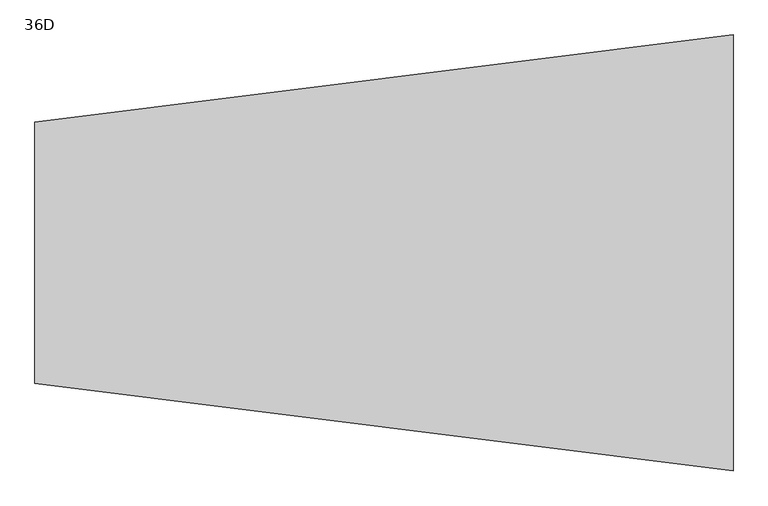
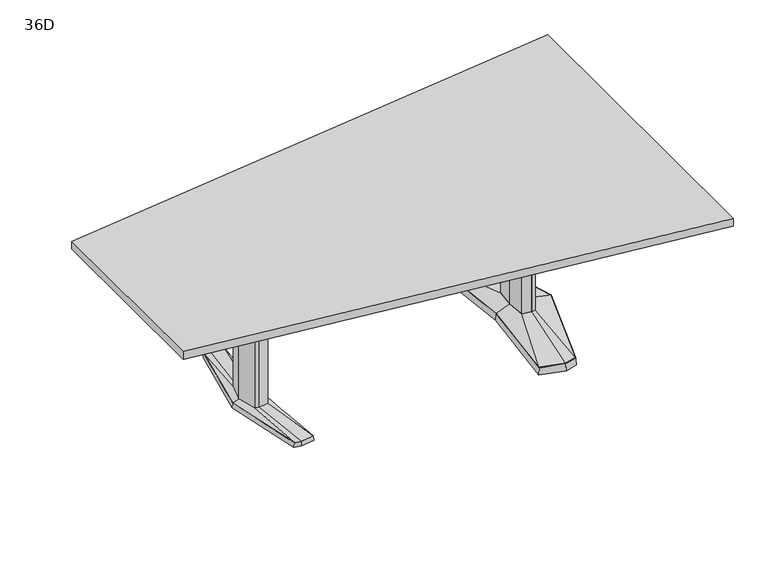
"""IFC4 building model written with IfcOpenShell, lengths in millimetres: furniture geometry, Coalesse_AM_Table_Conference_ETable2_Trapezoid_96in_AluminiumBase : 36D."""

from ifc_helpers import new_model, si_unit, frame, origin, place, context, project, spatial, polyline, outline, extrude, faceted_brep, source, transform, mapped, element, save
from ifc_brep_helpers import plane_surface, spline_surface, advanced_brep


def furniture_36d_ee0eb5e9(model_context):
    return source(origin(), model_context, "Body", "SolidModel", [
        advanced_brep(
        [(-612.4690971, -379.3768856, 25.4), (-646.5982754, -94.605478, 36.5125), (-665.8514743, -89.293702, 36.5125), (-642.1944136, -371.5332654, 25.4), (-549.3800038, -368.5071562, 25.4), (-603.6708501, -87.0529327, 36.5125), (-577.4577254, 0.3970149, 25.4), (-595.5551707, 0.0, 36.5125), (-549.3802502, 368.5172593, 25.4), (-603.6708501, 87.0529327, 36.5125), (-612.4689733, 379.3769183, 25.4), (-646.5982754, 94.605478, 36.5125), (-642.3722958, 371.4863276, 25.4), (-665.8514743, 89.293702, 36.5125), (-719.1039163, 0.0003516, 25.4), (-689.7782751, 0.0, 36.5125), (-575.8656242, 0.3968871, 3.175), (-547.6875, -369.8264415, 3.175), (-612.5400504, -381.0, 3.175), (-643.5497317, -372.8174744, 3.175), (-720.725, 0.0, 3.175), (-643.7280745, 372.7704151, 3.175), (-612.5400504, 381.0, 3.175), (-547.6875, 369.8367279, 3.175), (-647.2166764, 107.6121478, 3.175), (-676.2370973, 99.6056872, 3.175), (-702.9270585, 0.0, 3.175), (-676.2370973, -99.6056872, 3.175), (-647.2166764, -107.6121478, 3.175), (-591.9252951, -97.8843184, 3.175), (-582.7998387, 0.0, 3.175), (-591.9252951, 97.8843184, 3.175), (-611.0474312, 346.9152841, 3.175), (-645.1732026, 337.9105158, 3.175), (-646.2913109, 324.4807859, 3.175), (-610.4788144, 333.9306305, 3.175), (-557.8077418, 324.8641942, 3.175), (-555.3998871, 337.3364985, 3.175), (-611.0474312, -346.9152841, 3.175), (-555.3998871, -337.3364985, 3.175), (-557.8077418, -324.8641942, 3.175), (-610.4788144, -333.9306305, 3.175), (-646.2913109, -324.4807859, 3.175), (-645.1732026, -337.9105158, 3.175), (-647.2166764, 107.6121478, 0.0), (-591.9252951, 97.8843184, 0.0), (-582.7998387, 0.0, 0.0), (-591.9252951, -97.8843184, 0.0), (-647.2166764, -107.6121478, 0.0), (-676.2370973, -99.6056872, 0.0), (-702.9270585, 0.0, 0.0), (-676.2370973, 99.6056872, 0.0), (-611.0474312, 346.9152841, 0.0), (-555.3998871, 337.3364985, 0.0), (-557.8077418, 324.8641942, 0.0), (-610.4788144, 333.9306305, 0.0), (-646.2913109, 324.4807859, 0.0), (-645.1732026, 337.9105158, 0.0), (-611.0474312, -346.9152841, 0.0), (-645.1732026, -337.9105158, 0.0), (-646.2913109, -324.4807859, 0.0), (-610.4788144, -333.9306305, 0.0), (-557.8077418, -324.8641942, 0.0), (-555.3998871, -337.3364985, 0.0), (-665.8514743, 89.293702, 698.5), (-689.7782751, 0.0, 698.5), (-665.8514743, -89.293702, 698.5), (-646.5982754, -94.605478, 698.5), (-603.6708501, -87.0529327, 698.5), (-595.5551707, 0.0, 698.5), (-603.6708501, 87.0529327, 698.5), (-646.5982754, 94.605478, 698.5)],
        [
            (0, 1),
            (1, 2),
            (2, 3),
            (3, 0),
            (0, 4),
            (4, 5),
            (5, 1),
            (4, 6),
            (6, 7),
            (7, 5),
            (6, 8),
            (8, 9),
            (9, 7),
            (8, 10),
            (10, 11),
            (11, 9),
            (10, 12),
            (12, 13),
            (13, 11),
            (12, 14),
            (14, 15),
            (15, 13),
            (2, 15),
            (14, 3),
            (16, 17),
            (17, 18),
            (18, 19),
            (19, 20),
            (20, 21),
            (21, 22),
            (22, 23),
            (23, 16),
            (24, 25),
            (25, 26),
            (26, 27),
            (27, 28),
            (28, 29),
            (29, 30),
            (30, 31),
            (31, 24),
            (32, 33),
            (33, 34),
            (34, 35),
            (35, 36),
            (36, 37),
            (37, 32),
            (38, 39),
            (39, 40),
            (40, 41),
            (41, 42),
            (42, 43),
            (43, 38),
            (23, 8),
            (6, 16),
            (22, 10),
            (21, 12),
            (20, 14),
            (19, 3),
            (18, 0),
            (17, 4),
            (44, 45),
            (45, 46),
            (46, 47),
            (47, 48),
            (48, 49),
            (49, 50),
            (50, 51),
            (51, 44),
            (52, 53),
            (53, 54),
            (54, 55),
            (55, 56),
            (56, 57),
            (57, 52),
            (58, 59),
            (59, 60),
            (60, 61),
            (61, 62),
            (62, 63),
            (63, 58),
            (51, 25),
            (24, 44),
            (50, 26),
            (49, 27),
            (48, 28),
            (47, 29),
            (46, 30),
            (45, 31),
            (57, 33),
            (32, 52),
            (56, 34),
            (55, 35),
            (54, 36),
            (53, 37),
            (63, 39),
            (38, 58),
            (62, 40),
            (61, 41),
            (60, 42),
            (59, 43),
            (64, 65),
            (65, 66),
            (66, 67),
            (67, 68),
            (68, 69),
            (69, 70),
            (70, 71),
            (71, 64),
            (64, 13),
            (15, 65),
            (2, 66),
            (1, 67),
            (5, 68),
            (7, 69),
            (9, 70),
            (11, 71),
        ],
        [
            spline_surface(1, 1, [[(-642.1944136, -371.5332654, 25.4), (-665.8514743, -89.293702, 36.5125)], [(-612.4690971, -379.3768856, 25.4), (-646.5982754, -94.605478, 36.5125)]], [2, 2], [2, 2], [0.0, 1.0], [0.0, 1.0]),
            spline_surface(1, 1, [[(-612.4690971, -379.3768856, 25.4), (-646.5982754, -94.605478, 36.5125)], [(-549.3800038, -368.5071562, 25.4), (-603.6708501, -87.0529327, 36.5125)]], [2, 2], [2, 2], [0.0, 1.0], [0.0, 1.0]),
            spline_surface(1, 1, [[(-549.3800038, -368.5071562, 25.4), (-603.6708501, -87.0529327, 36.5125)], [(-577.4577254, 0.3970149, 25.4), (-595.5551707, 0.0, 36.5125)]], [2, 2], [2, 2], [0.0, 1.0], [0.0, 1.0]),
            spline_surface(1, 1, [[(-577.4577254, 0.3970149, 25.4), (-595.5551707, 0.0, 36.5125)], [(-549.3802502, 368.5172593, 25.4), (-603.6708501, 87.0529327, 36.5125)]], [2, 2], [2, 2], [0.0, 1.0], [0.0, 1.0]),
            spline_surface(1, 1, [[(-549.3802502, 368.5172593, 25.4), (-603.6708501, 87.0529327, 36.5125)], [(-612.4689733, 379.3769183, 25.4), (-646.5982754, 94.605478, 36.5125)]], [2, 2], [2, 2], [0.0, 1.0], [0.0, 1.0]),
            spline_surface(1, 1, [[(-612.4689733, 379.3769183, 25.4), (-646.5982754, 94.605478, 36.5125)], [(-642.3722958, 371.4863276, 25.4), (-665.8514743, 89.293702, 36.5125)]], [2, 2], [2, 2], [0.0, 1.0], [0.0, 1.0]),
            spline_surface(1, 1, [[(-642.3722958, 371.4863276, 25.4), (-665.8514743, 89.293702, 36.5125)], [(-719.1039163, 0.0003516, 25.4), (-689.7782751, 0.0, 36.5125)]], [2, 2], [2, 2], [0.0, 1.0], [0.0, 1.0]),
            spline_surface(1, 1, [[(-719.1039163, 0.0003516, 25.4), (-689.7782751, 0.0, 36.5125)], [(-642.1944136, -371.5332654, 25.4), (-665.8514743, -89.293702, 36.5125)]], [2, 2], [2, 2], [0.0, 1.0], [0.0, 1.0]),
            plane_surface(frame((-613.0404414, 0.0450143, 3.175), z_axis=(0.0, 0.0, -1.0), x_axis=(0.9669048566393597, -0.2551372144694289, 0.0))),
            plane_surface(frame((-561.7765621, 185.1168075, 3.175), z_axis=(0.9945699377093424, -0.07585840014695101, 0.0712470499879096), x_axis=(0.07605167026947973, 0.9971038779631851, 0.0))),
            plane_surface(frame((-580.1137752, 375.418364, 3.175), z_axis=(0.1692071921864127, 0.9830019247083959, 0.07124704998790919), x_axis=(-0.985506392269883, 0.16963829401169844, 0.0))),
            plane_surface(frame((-628.1340624, 376.8852076, 3.175), z_axis=(-0.2544888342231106, 0.9644476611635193, 0.07124704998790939), x_axis=(-0.9669048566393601, -0.25513721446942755, 0.0))),
            plane_surface(frame((-682.2265372, 186.3852076, 3.175), z_axis=(-0.9768383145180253, 0.2017690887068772, 0.07124704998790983), x_axis=(-0.20228315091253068, -0.9793270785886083, 0.0))),
            plane_surface(frame((-682.1373658, -186.4087372, 3.175), z_axis=(-0.9767507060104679, -0.20219276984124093, 0.07124704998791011), x_axis=(0.2027079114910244, -0.9792392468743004, 0.0))),
            plane_surface(frame((-628.044891, -376.9087372, 3.175), z_axis=(-0.2544888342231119, -0.9644476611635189, 0.0712470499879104), x_axis=(0.9669048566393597, -0.2551372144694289, 0.0))),
            plane_surface(frame((-580.1137752, -375.4132207, 3.175), z_axis=(0.16935861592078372, -0.982975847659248, 0.07124704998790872), x_axis=(0.9854802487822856, 0.16979010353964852, 0.0))),
            plane_surface(frame((-561.7765621, -184.7147772, 3.175), z_axis=(0.9945820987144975, 0.07569878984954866, 0.07124704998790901), x_axis=(-0.07589165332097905, 0.9971160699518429, 0.0))),
            plane_surface(frame((-649.9758979, 106.8509046, 0.0), z_axis=(0.0, 0.0, -1.0000000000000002), x_axis=(0.9639855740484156, 0.26595453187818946, 0.0))),
            plane_surface(frame((-647.2166764, 107.6121478, 3.175), z_axis=(-0.26595453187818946, 0.9639855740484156, 0.0), x_axis=(0.0, 0.0, -1.0))),
            plane_surface(frame((-676.2370973, 99.6056872, 3.175), z_axis=(-0.9659241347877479, 0.2588253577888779, 0.0), x_axis=(0.0, 0.0, -1.0))),
            plane_surface(frame((-702.9270585, 0.0, 3.175), z_axis=(-0.9659241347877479, -0.2588253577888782, 0.0), x_axis=(0.0, 0.0, -1.0))),
            plane_surface(frame((-676.2370973, -99.6056872, 3.175), z_axis=(-0.26595453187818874, -0.9639855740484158, 0.0), x_axis=(0.0, 0.0, -1.0))),
            plane_surface(frame((-647.2166764, -107.6121478, 3.175), z_axis=(0.17327617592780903, -0.9848732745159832, 0.0), x_axis=(0.0, 0.0, -1.0))),
            plane_surface(frame((-591.9252951, -97.8843184, 3.175), z_axis=(0.9956824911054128, -0.0928244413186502, 0.0), x_axis=(0.0, 0.0, -1.0))),
            plane_surface(frame((-582.7998387, 0.0, 3.175), z_axis=(0.9956824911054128, 0.09282444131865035, 0.0), x_axis=(0.0, 0.0, -1.0))),
            plane_surface(frame((-591.9252951, 97.8843184, 3.175), z_axis=(0.17327617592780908, 0.984873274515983, 0.0), x_axis=(0.0, 0.0, -1.0))),
            plane_surface(frame((-611.0474312, 346.9152841, 3.175), z_axis=(-0.25513721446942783, 0.9669048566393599, 0.0), x_axis=(0.0, 0.0, -1.0))),
            plane_surface(frame((-645.1732026, 337.9105158, 3.175), z_axis=(-0.9965521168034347, 0.0829691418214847, 0.0), x_axis=(0.0, 0.0, -1.0))),
            plane_surface(frame((-646.2913109, 324.4807859, 3.175), z_axis=(0.25513721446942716, -0.9669048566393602, 0.0), x_axis=(0.0, 0.0, -1.0))),
            plane_surface(frame((-610.4788144, 333.9306305, 3.175), z_axis=(-0.16963829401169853, -0.985506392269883, 0.0), x_axis=(0.0, 0.0, -1.0))),
            plane_surface(frame((-557.8077418, 324.8641942, 3.175), z_axis=(0.9818699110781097, -0.18955600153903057, 0.0), x_axis=(0.0, 0.0, -1.0))),
            plane_surface(frame((-555.3998871, 337.3364985, 3.175), z_axis=(0.16963829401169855, 0.9855063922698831, 0.0), x_axis=(0.0, 0.0, -1.0))),
            plane_surface(frame((-611.0474312, -346.9152841, 3.175), z_axis=(0.1696382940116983, -0.9855063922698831, 0.0), x_axis=(0.0, 0.0, -1.0))),
            plane_surface(frame((-555.3998871, -337.3364985, 3.175), z_axis=(0.9818699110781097, 0.18955600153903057, 0.0), x_axis=(0.0, 0.0, -1.0))),
            plane_surface(frame((-557.8077418, -324.8641942, 3.175), z_axis=(-0.16963829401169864, 0.985506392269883, 0.0), x_axis=(0.0, 0.0, -1.0))),
            plane_surface(frame((-610.4788144, -333.9306305, 3.175), z_axis=(0.2551372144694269, 0.9669048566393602, 0.0), x_axis=(0.0, 0.0, -1.0))),
            plane_surface(frame((-646.2913109, -324.4807859, 3.175), z_axis=(-0.9965521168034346, -0.0829691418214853, 0.0), x_axis=(0.0, 0.0, -1.0))),
            plane_surface(frame((-645.1732026, -337.9105158, 3.175), z_axis=(-0.2551372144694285, -0.9669048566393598, 0.0), x_axis=(0.0, 0.0, -1.0))),
            plane_surface(frame((-689.7782751, 0.0, 698.5), z_axis=(0.0, 0.0, 1.0), x_axis=(-0.25882535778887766, -0.965924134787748, 0.0))),
            plane_surface(frame((-665.8514743, 89.293702, 698.5), z_axis=(-0.965924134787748, 0.25882535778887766, 0.0), x_axis=(0.0, 0.0, -1.0))),
            plane_surface(frame((-689.7782751, 0.0, 698.5), z_axis=(-0.965924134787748, -0.2588253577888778, 0.0), x_axis=(0.0, 0.0, -1.0))),
            plane_surface(frame((-665.8514743, -89.293702, 698.5), z_axis=(-0.2659545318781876, -0.963985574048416, 0.0), x_axis=(0.0, 0.0, -1.0))),
            plane_surface(frame((-646.5982754, -94.605478, 698.5), z_axis=(0.1732761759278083, -0.9848732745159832, 0.0), x_axis=(0.0, 0.0, -1.0))),
            plane_surface(frame((-603.6708501, -87.0529327, 698.5), z_axis=(0.9956824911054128, -0.0928244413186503, 0.0), x_axis=(0.0, 0.0, -1.0))),
            plane_surface(frame((-595.5551707, 0.0, 698.5), z_axis=(0.9956824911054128, 0.09282444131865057, 0.0), x_axis=(0.0, 0.0, -1.0))),
            plane_surface(frame((-603.6708501, 87.0529327, 698.5), z_axis=(0.17327617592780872, 0.9848732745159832, 0.0), x_axis=(0.0, 0.0, -1.0))),
            plane_surface(frame((-646.5982754, 94.605478, 698.5), z_axis=(-0.26595453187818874, 0.9639855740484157, 0.0), x_axis=(0.0, 0.0, -1.0))),
        ],
        [
            (0, [[1, 2, 3, 4]]),
            (1, [[-1, 5, 6, 7]]),
            (2, [[-6, 8, 9, 10]]),
            (3, [[-9, 11, 12, 13]]),
            (4, [[-12, 14, 15, 16]]),
            (5, [[-15, 17, 18, 19]]),
            (6, [[-18, 20, 21, 22]]),
            (7, [[-3, 23, -21, 24]]),
            (8, [[25, 26, 27, 28, 29, 30, 31, 32], [33, 34, 35, 36, 37, 38, 39, 40], [41, 42, 43, 44, 45, 46], [47, 48, 49, 50, 51, 52]]),
            (9, [[-32, 53, -11, 54]]),
            (10, [[-31, 55, -14, -53]]),
            (11, [[-30, 56, -17, -55]]),
            (12, [[-29, 57, -20, -56]]),
            (13, [[-28, 58, -24, -57]]),
            (14, [[-27, 59, -4, -58]]),
            (15, [[-26, 60, -5, -59]]),
            (16, [[-25, -54, -8, -60]]),
            (17, [[61, 62, 63, 64, 65, 66, 67, 68]]),
            (17, [[69, 70, 71, 72, 73, 74]]),
            (17, [[75, 76, 77, 78, 79, 80]]),
            (18, [[-68, 81, -33, 82]]),
            (19, [[-67, 83, -34, -81]]),
            (20, [[-66, 84, -35, -83]]),
            (21, [[-65, 85, -36, -84]]),
            (22, [[-64, 86, -37, -85]]),
            (23, [[-63, 87, -38, -86]]),
            (24, [[-62, 88, -39, -87]]),
            (25, [[-61, -82, -40, -88]]),
            (26, [[-74, 89, -41, 90]]),
            (27, [[-73, 91, -42, -89]]),
            (28, [[-72, 92, -43, -91]]),
            (29, [[-71, 93, -44, -92]]),
            (30, [[-70, 94, -45, -93]]),
            (31, [[-69, -90, -46, -94]]),
            (32, [[-80, 95, -47, 96]]),
            (33, [[-79, 97, -48, -95]]),
            (34, [[-78, 98, -49, -97]]),
            (35, [[-77, 99, -50, -98]]),
            (36, [[-76, 100, -51, -99]]),
            (37, [[-75, -96, -52, -100]]),
            (38, [[101, 102, 103, 104, 105, 106, 107, 108]]),
            (39, [[-101, 109, -22, 110]]),
            (40, [[-102, -110, -23, 111]]),
            (41, [[-103, -111, -2, 112]]),
            (42, [[-104, -112, -7, 113]]),
            (43, [[-105, -113, -10, 114]]),
            (44, [[-106, -114, -13, 115]]),
            (45, [[-107, -115, -16, 116]]),
            (46, [[-108, -116, -19, -109]]),
        ],
    ),
        faceted_brep([(601.0306835, 455.5848221, 38.1), (491.4531277, 426.2263816, 38.1), (532.6163717, 0.0, 38.1), (491.4531277, -426.2263816, 38.1), (601.0306835, -455.5848221, 38.1), (657.1570396, -440.5478297, 38.1), (794.4684269, 0.0, 38.1), (657.1570396, 440.5478297, 38.1), (601.0306754, 457.2283104, 3.175), (658.4124472, 441.8549756, 3.175), (796.13125, 0.0, 3.175), (658.4124472, -441.8549756, 3.175), (601.0306754, -457.2283104, 3.175), (489.74375, -427.4118891, 3.175), (531.0214856, 0.0, 3.175), (489.74375, 427.4118891, 3.175), (604.620115, 428.3273875, 3.175), (499.5718228, 402.1057253, 3.175), (507.690518, 377.985069, 3.175), (608.2095466, 401.0699529, 3.175), (658.7691725, 387.524361, 3.175), (657.9631061, 414.0360954, 3.175), (604.620115, -428.3273875, 3.175), (657.9631061, -414.0360954, 3.175), (658.7691725, -387.524361, 3.175), (608.2095466, -401.0699529, 3.175), (507.690518, -377.985069, 3.175), (499.5718228, -402.1057253, 3.175), (731.2153621, 0.0, 3.175), (698.9459611, 120.4193755, 3.175), (650.2987222, 133.471665, 3.175), (570.4180526, 119.4176561, 3.175), (559.2868466, 0.0, 3.175), (570.4180526, -119.4176561, 3.175), (650.2987222, -133.471665, 3.175), (698.9459611, -120.4193755, 3.175), (604.620115, 428.3273875, 0.0), (657.9631061, 414.0360954, 0.0), (658.7691725, 387.524361, 0.0), (608.2095466, 401.0699529, 0.0), (507.690518, 377.985069, 0.0), (499.5718228, 402.1057253, 0.0), (604.620115, -428.3273875, 0.0), (499.5718228, -402.1057253, 0.0), (507.690518, -377.985069, 0.0), (608.2095466, -401.0699529, 0.0), (658.7691725, -387.524361, 0.0), (657.9631061, -414.0360954, 0.0), (731.2153621, 0.0, 0.0), (698.9459611, -120.4193755, 0.0), (650.2987222, -133.471665, 0.0), (570.4180526, -119.4176561, 0.0), (559.2868466, 0.0, 0.0), (570.4180526, 119.4176561, 0.0), (650.2987222, 133.471665, 0.0), (698.9459611, 120.4193755, 0.0)], [[[0, 1, 2, 3, 4, 5, 6, 7]], [[8, 9, 10, 11, 12, 13, 14, 15], [16, 17, 18, 19, 20, 21], [22, 23, 24, 25, 26, 27], [28, 29, 30, 31, 32, 33, 34, 35]], [[7, 9, 8, 0]], [[6, 10, 9, 7]], [[5, 11, 10, 6]], [[4, 12, 11, 5]], [[3, 13, 12, 4]], [[2, 14, 13, 3]], [[1, 15, 14, 2]], [[0, 8, 15, 1]], [[36, 37, 38, 39, 40, 41]], [[42, 43, 44, 45, 46, 47]], [[48, 49, 50, 51, 52, 53, 54, 55]], [[36, 16, 21, 37]], [[37, 21, 20, 38]], [[38, 20, 19, 39]], [[39, 19, 18, 40]], [[40, 18, 17, 41]], [[41, 17, 16, 36]], [[42, 22, 27, 43]], [[43, 27, 26, 44]], [[44, 26, 25, 45]], [[45, 25, 24, 46]], [[46, 24, 23, 47]], [[47, 23, 22, 42]], [[48, 28, 35, 49]], [[49, 35, 34, 50]], [[50, 34, 33, 51]], [[51, 33, 32, 52]], [[52, 32, 31, 53]], [[53, 31, 30, 54]], [[54, 30, 29, 55]], [[55, 29, 28, 48]]]),
        faceted_brep([(691.7710836, 0.0, 698.5), (667.8358546, 89.3188359, 698.5), (650.9824984, 93.8406728, 698.5), (648.5826511, 94.4845635, 698.5), (605.655146, 86.9320037, 698.5), (597.5520056, 0.0, 698.5), (605.655146, -86.9320037, 698.5), (648.5826511, -94.4845635, 698.5), (650.9824984, -93.8406728, 698.5), (667.8358546, -89.3188359, 698.5), (691.7710836, 0.0, 63.5), (667.8358546, -89.3188359, 63.5), (650.9824984, -93.8406728, 63.5), (648.5826511, -94.4845635, 63.5), (605.655146, -86.9320037, 63.5), (597.5520056, 0.0, 63.5), (605.655146, 86.9320037, 63.5), (648.5826511, 94.4845635, 63.5), (650.9824984, 93.8406728, 63.5), (667.8358546, 89.3188359, 63.5)], [[[0, 1, 2, 3, 4, 5, 6, 7, 8, 9]], [[10, 11, 12, 13, 14, 15, 16, 17, 18, 19]], [[9, 11, 10, 0]], [[8, 12, 11, 9]], [[7, 13, 12, 8]], [[6, 14, 13, 7]], [[5, 15, 14, 6]], [[4, 16, 15, 5]], [[3, 17, 16, 4]], [[2, 18, 17, 3]], [[1, 19, 18, 2]], [[0, 10, 19, 1]]]),
        advanced_brep(
        [(648.5826511, 94.4845635, 63.5), (605.655146, 86.9320037, 63.5), (597.5520056, 0.0, 63.5), (605.655146, -86.9320037, 63.5), (648.5826511, -94.4845635, 63.5), (667.8358546, -89.3188359, 63.5), (691.7710836, 0.0, 63.5), (667.8358546, 89.3188359, 63.5), (601.0306835, 455.5848221, 38.1), (657.1570396, 440.5478297, 38.1), (794.4684269, 0.0, 38.1), (657.1570396, -440.5478297, 38.1), (601.0306835, -455.5848221, 38.1), (491.4531277, -426.2263816, 38.1), (532.6163717, 0.0, 38.1), (491.4531277, 426.2263816, 38.1)],
        [
            (0, 1),
            (1, 2),
            (2, 3),
            (3, 4),
            (4, 5),
            (5, 6),
            (6, 7),
            (7, 0),
            (8, 9),
            (9, 10),
            (10, 11),
            (11, 12),
            (12, 13),
            (13, 14),
            (14, 15),
            (15, 8),
            (8, 0),
            (7, 9),
            (6, 10),
            (5, 11),
            (4, 12),
            (3, 13),
            (2, 14),
            (1, 15),
        ],
        [
            plane_surface(frame((641.6837991, 0.0, 63.5), z_axis=(0.0, 0.0, 1.0), x_axis=(-0.25884244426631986, -0.9659195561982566, 0.0))),
            plane_surface(frame((603.2958125, 0.0, 38.1), z_axis=(0.0, 0.0, -1.0), x_axis=(-0.25884244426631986, -0.9659195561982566, 0.0))),
            spline_surface(1, 1, [[(601.0306835, 455.5848221, 38.1), (657.1570396, 440.5478297, 38.1)], [(648.5826511, 94.4845635, 63.5), (667.8358546, 89.3188359, 63.5)]], [2, 2], [2, 2], [0.0, 1.0], [0.0, 1.0]),
            spline_surface(1, 1, [[(657.1570396, 440.5478297, 38.1), (794.4684269, 0.0, 38.1)], [(667.8358546, 89.3188359, 63.5), (691.7710836, 0.0, 63.5)]], [2, 2], [2, 2], [0.0, 1.0], [0.0, 1.0]),
            spline_surface(1, 1, [[(794.4684269, 0.0, 38.1), (657.1570396, -440.5478297, 38.1)], [(691.7710836, 0.0, 63.5), (667.8358546, -89.3188359, 63.5)]], [2, 2], [2, 2], [0.0, 1.0], [0.0, 1.0]),
            spline_surface(1, 1, [[(657.1570396, -440.5478297, 38.1), (601.0306835, -455.5848221, 38.1)], [(667.8358546, -89.3188359, 63.5), (648.5826511, -94.4845635, 63.5)]], [2, 2], [2, 2], [0.0, 1.0], [0.0, 1.0]),
            spline_surface(1, 1, [[(601.0306835, -455.5848221, 38.1), (491.4531277, -426.2263816, 38.1)], [(648.5826511, -94.4845635, 63.5), (605.655146, -86.9320037, 63.5)]], [2, 2], [2, 2], [0.0, 1.0], [0.0, 1.0]),
            spline_surface(1, 1, [[(491.4531277, -426.2263816, 38.1), (532.6163717, 0.0, 38.1)], [(605.655146, -86.9320037, 63.5), (597.5520056, 0.0, 63.5)]], [2, 2], [2, 2], [0.0, 1.0], [0.0, 1.0]),
            spline_surface(1, 1, [[(532.6163717, 0.0, 38.1), (491.4531277, 426.2263816, 38.1)], [(597.5520056, 0.0, 63.5), (605.655146, 86.9320037, 63.5)]], [2, 2], [2, 2], [0.0, 1.0], [0.0, 1.0]),
            spline_surface(1, 1, [[(491.4531277, 426.2263816, 38.1), (601.0306835, 455.5848221, 38.1)], [(605.655146, 86.9320037, 63.5), (648.5826511, 94.4845635, 63.5)]], [2, 2], [2, 2], [0.0, 1.0], [0.0, 1.0]),
        ],
        [
            (0, [[1, 2, 3, 4, 5, 6, 7, 8]]),
            (1, [[9, 10, 11, 12, 13, 14, 15, 16]]),
            (2, [[17, -8, 18, -9]]),
            (3, [[-18, -7, 19, -10]]),
            (4, [[-19, -6, 20, -11]]),
            (5, [[-20, -5, 21, -12]]),
            (6, [[-21, -4, 22, -13]]),
            (7, [[-22, -3, 23, -14]]),
            (8, [[-23, -2, 24, -15]]),
            (9, [[-24, -1, -17, -16]]),
        ],
    ),
        extrude(outline(polyline([(96.8375, 698.5), (103.1875, 698.5), (103.1875, 476.25), (-103.1875, 476.25), (-103.1875, 698.5), (-96.8375, 698.5), (-96.8375, 482.6), (96.8375, 482.6), (96.8375, 698.5)])), frame((-595.5551707, 0.0, 0.0), z_axis=(1.0, 0.0, 0.0), x_axis=(0.0, 1.0, 0.0)), (0.0, 0.0, 1.0), 1193.1071763),
        extrude(outline(polyline([(-1219.2, -457.2), (-1219.2, 457.2), (1219.2, 762.0), (1219.2, -762.0), (-1219.2, -457.2)])), frame((0.0, 0.0, 698.5), z_axis=(0.0, 0.0, 1.0), x_axis=(1.0, 0.0, 0.0)), (0.0, 0.0, 1.0), 38.1),
    ])


if __name__ == "__main__":
    model = new_model("IFC4")
    model_context = context("Model", 3, world=origin())
    ifc_project = project(units=[si_unit("LENGTHUNIT", "METRE", prefix="MILLI")], contexts=[model_context])
    site = spatial("IfcSite", under=ifc_project)
    building = spatial("IfcBuilding", under=site)
    placement = place(None, origin())
    furniture_36d_shape = furniture_36d_ee0eb5e9(model_context)
    element("IfcFurniture", 1, ObjectType="Coalesse_AM_Table_Conference_ETable2_Trapezoid_96in_AluminiumBase : 36D", at=placement, inside=building, context=model_context, shape_type="MappedRepresentation", body=[
        mapped(furniture_36d_shape, transform((0.0, 0.0, 0.0), x_axis=(1.0, 0.0, 0.0), y_axis=(0.0, 1.0, 0.0), z_axis=(0.0, 0.0, 1.0))),
    ])
    save(model, "model.ifc")
